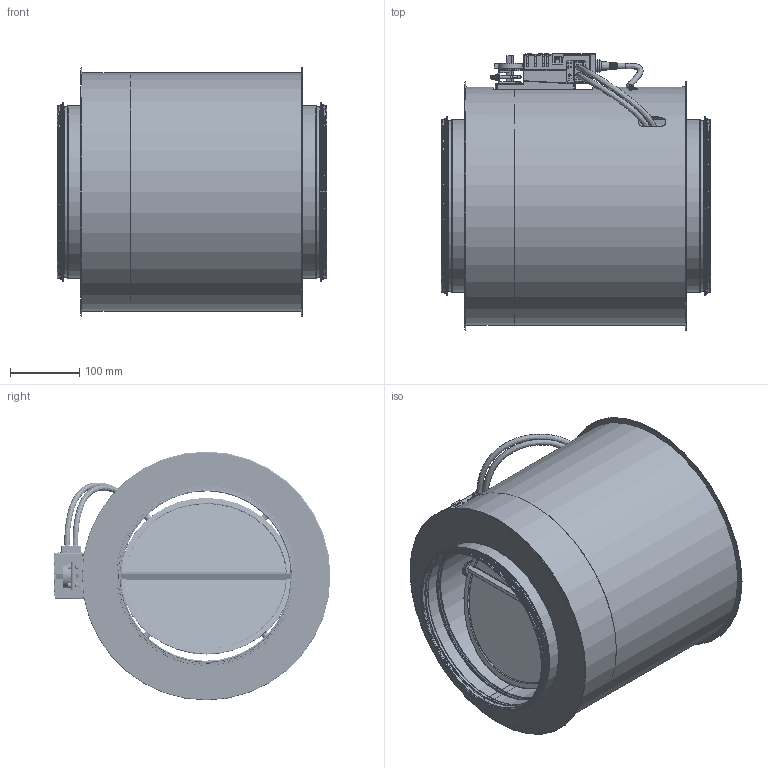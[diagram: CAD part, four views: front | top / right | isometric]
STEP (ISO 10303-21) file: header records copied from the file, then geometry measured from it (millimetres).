
FILE_DESCRIPTION (( 'STEP AP214' ), '1' );
FILE_NAME ('VAV-RI250.STEP', '2025-03-06T08:55:25', ( '' ), ( '' ), 'SwSTEP 2.0', 'SolidWorks 2025', '' );
FILE_SCHEMA (( 'AUTOMOTIVE_DESIGN' ));
Length unit declared in the file: millimetre
Products named in the file (20): Abschlusskappexxx_x_x; DB_DN250; VSRV_Zapfen; CROSS_WING250; CROSS_PLUG; VAV-RI250; Dichtung_Vierkantxxx_x_x; hose conn^VAV-RI250; LDE_DN250; CROSS_PIECE; Isogehäuse_DN250; BELIMO_MOTOR BRACKET_DN300-400; Dichtungen; CROSS_DN250; KLAPPE250; Sicherungsscheibexxx_x_x; Label VAVR250; LMV-D3-MP; Dichtung_innenxxx_x_x; BLECHSCHRAUBE
Assembly tree (28 placements, depth 3):
  VAV-RI250
    DB_DN250
    BELIMO_MOTOR BRACKET_DN300-400
    CROSS_DN250
      CROSS_PIECE
      CROSS_WING250  x4
      CROSS_PLUG  x3
      VSRV_Zapfen
    LDE_DN250  x2
    BLECHSCHRAUBE  x3
    LMV-D3-MP
    Dichtungen  x2
      Abschlusskappexxx_x_x
      Dichtung_innenxxx_x_x
      Dichtung_Vierkantxxx_x_x
      Sicherungsscheibexxx_x_x
    KLAPPE250
    Label VAVR250
    Isogehäuse_DN250
    hose conn^VAV-RI250
Bounding box: 390.34 x 401.17 x 360.45 mm (x, y, z)
Volume: 608244.9 mm3; surface area: 1934729.6 mm2
Topology: 31 solids, 49 shells, 6696 faces, 18082 edges, 11867 vertices
Faces by surface type: plane 2953, bspline 2459, cylinder 1026, torus 137, cone 91, sphere 30
Full cylindrical faces by diameter (mm): 1 x4, 1.911 x6, 2 x25, 2.5 x6, 3.5 x3, 4 x2, 5 x2, 5.5 x3, 6 x27, 7.5 x2, 8 x21, 11 x1, 16 x2, 20 x2, 21 x2, 21.422 x2, 23.5 x2, 25 x2, 245.845 x2, 246.74 x2, 247.4 x2, 249.14 x4, 250 x4, 251 x1, 259.74 x2, 343 x1, 344 x2, 345 x1
Entity records: 353156 total; most frequent: CARTESIAN_POINT 158554, ORIENTED_EDGE 33973, EDGE_CURVE 17008, DIRECTION 15712, VERTEX_POINT 11293, B_SPLINE_CURVE_WITH_KNOTS 11085, EDGE_LOOP 7114, FACE_OUTER_BOUND 6498
